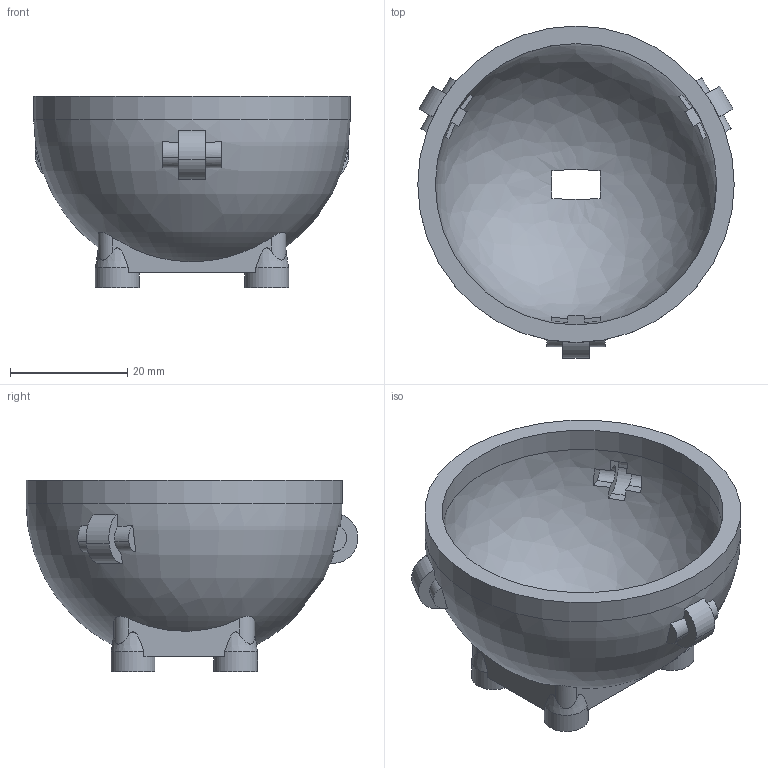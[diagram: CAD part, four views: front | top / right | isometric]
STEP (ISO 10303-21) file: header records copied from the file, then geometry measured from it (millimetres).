
FILE_DESCRIPTION(('Open CASCADE Model'),'2;1');
FILE_NAME('Open CASCADE Shape Model','2026-05-31T19:43:35',('Author'),( 'Open CASCADE'),'Open CASCADE STEP processor 7.6','Open CASCADE 7.6' ,'Unknown');
FILE_SCHEMA(('AP242_MANAGED_MODEL_BASED_3D_ENGINEERING_MIM_LF. {1 0 10303 442 1 1 4 }'));
Length unit declared in the file: millimetre
Products named in the file (1): Open CASCADE STEP translator 7.6 11
Bounding box: 54 x 56.63 x 32.6 mm (x, y, z)
Volume: 15454.9 mm3; surface area: 11481.3 mm2
Topology: 1 solids, 1 shells, 125 faces, 338 edges, 226 vertices
Faces by surface type: plane 61, extrusion 36, cylinder 18, bspline 4, cone 4, revolution 2
Full cylindrical faces by diameter (mm): 3.5 x4, 7.5 x4, 48 x1, 54 x1
Entity records: 19192 total; most frequent: CARTESIAN_POINT 12858, DIRECTION 1020, ORIENTED_EDGE 676, PCURVE 676, DEFINITIONAL_REPRESENTATION 676, VECTOR 506, LINE 470, B_SPLINE_CURVE_WITH_KNOTS 362
